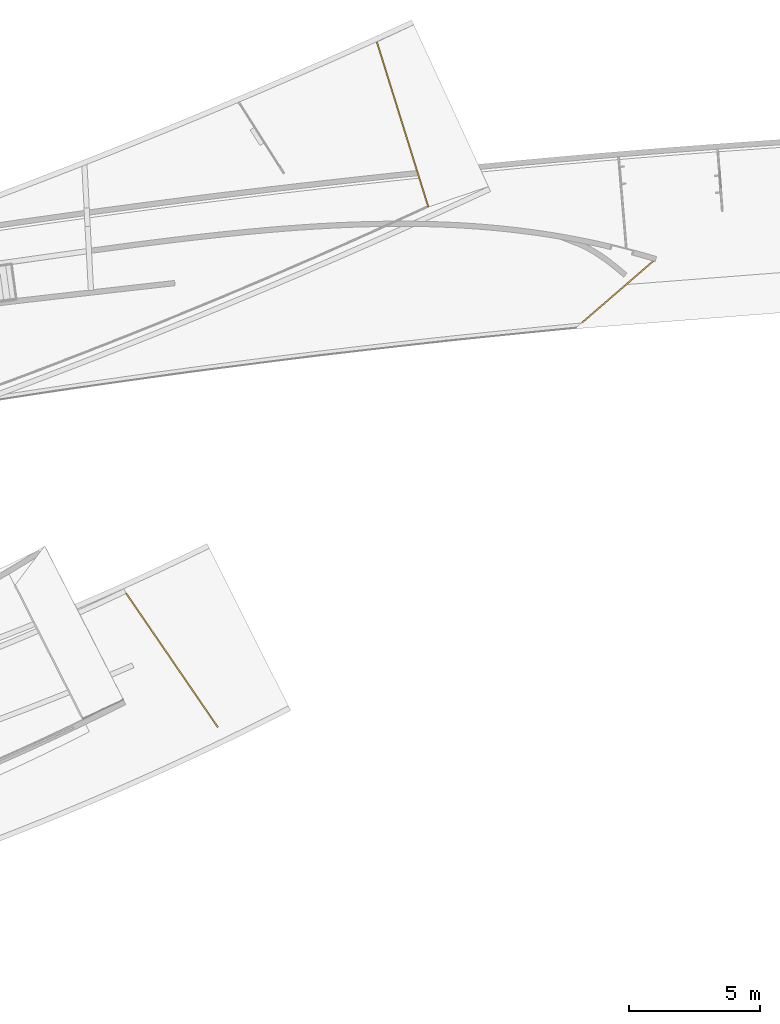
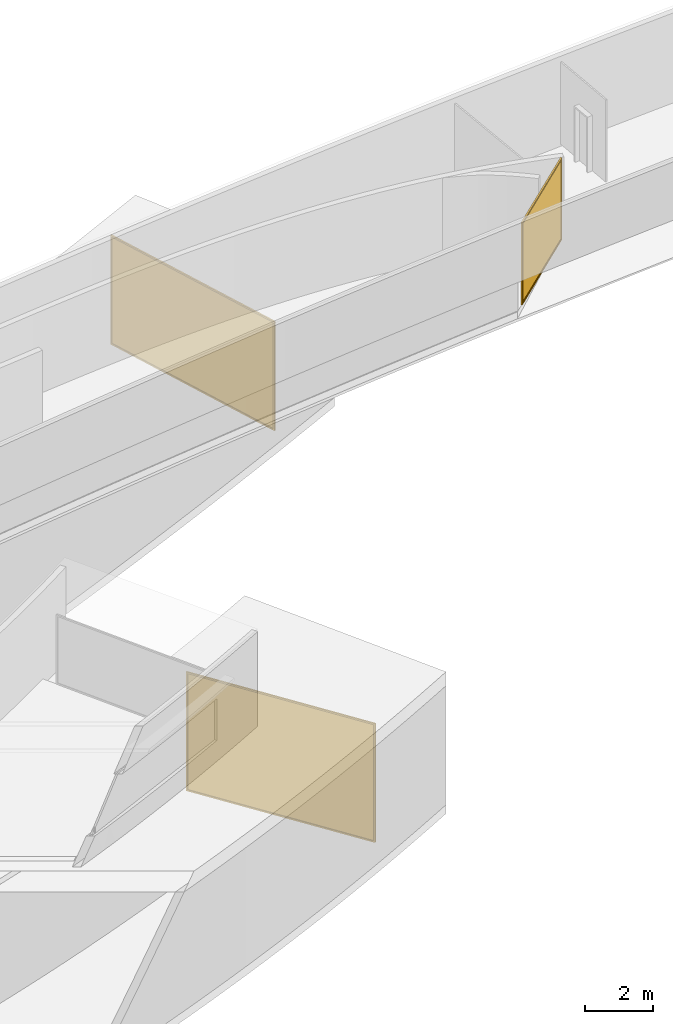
# Not in any storey, part 14 of 14: 3 curtain walls.
"""IFC2X3 model written with IfcOpenShell, lengths in millimetres."""

import ifcopenshell
import ifcopenshell.guid

model = None  # the IFC model being written
_history = None  # IfcOwnerHistory: only IFC2X3 demands one
_inside = {}  # id of a spatial element -> (the spatial element, [elements in it])
_under = {}  # id of a project, library or spatial element -> (it, [spatial elements below it])
_declared = {}  # id of a project -> (the project, [libraries it declares])
_typed = {}  # id of a type object -> (the type object, [elements of that type])
_made_of = {}  # id of a material, layer set ... -> (it, [elements and type objects made of it])


def new_model(schema):
    """Start an empty IFC model of exactly this schema.

    Asked for "IFC4X3", IfcOpenShell would pick the latest addendum, in which some entities
    have other attributes; the version numbers below select the first issue.
    IFC2X3 requires an IfcOwnerHistory on every rooted entity: one is made here for all.
    """
    global model, _history
    if schema == "IFC4X3":
        model = ifcopenshell.file(schema_version=(4, 3, 0, 0))
    else:
        model = ifcopenshell.file(schema=schema)
    _inside.clear()
    _under.clear()
    _declared.clear()
    _typed.clear()
    _made_of.clear()
    _history = None
    if model.schema == "IFC2X3":
        org = make("IfcOrganization", Name="unknown")
        user = make(
            "IfcPersonAndOrganization",
            ThePerson=make("IfcPerson", FamilyName="unknown"),
            TheOrganization=org,
        )
        app = make(
            "IfcApplication",
            ApplicationDeveloper=org,
            Version="unknown",
            ApplicationFullName="unknown",
            ApplicationIdentifier="unknown",
        )
        _history = make(
            "IfcOwnerHistory",
            OwningUser=user,
            OwningApplication=app,
            ChangeAction="ADDED",
            CreationDate=0,
        )
    return model


def make(cls, **values):
    """One entity of the class cls with the attributes given. An attribute that is None is left unset."""
    return model.create_entity(
        cls, **{name: value for name, value in values.items() if value is not None}
    )


def entity(cls, *values):
    """Any entity or typed value of the class cls, its attributes in the order of the schema. None: left unset."""
    e = model.create_entity(cls)
    for i, value in enumerate(values):
        if value is not None:
            e[i] = value
    return e


def rooted(cls, **values):
    """An entity with a GlobalId (a new one), such as an element, a storey or a relation."""
    return make(cls, GlobalId=ifcopenshell.guid.new(), OwnerHistory=_history, **values)


def si_unit(unit_type, name, prefix=None):
    """IfcSIUnit, for example si_unit("LENGTHUNIT", "METRE", prefix="MILLI")."""
    return make("IfcSIUnit", UnitType=unit_type, Prefix=prefix, Name=name)


def converted_unit(unit_type, name, factor, base, dimensions=None, offset=None):
    """IfcConversionBasedUnit, such as the inch: factor (a typed value) times the base unit."""
    return make(
        "IfcConversionBasedUnit"
        if offset is None
        else "IfcConversionBasedUnitWithOffset",
        ConversionOffset=offset,
        Dimensions=None
        if dimensions is None
        else entity("IfcDimensionalExponents", *dimensions),
        UnitType=unit_type,
        Name=name,
        ConversionFactor=make(
            "IfcMeasureWithUnit", ValueComponent=factor, UnitComponent=base
        ),
    )


def assignment(units):
    """IfcUnitAssignment: the units of a project."""
    return None if units is None else make("IfcUnitAssignment", Units=units)


def point(xyz):
    """IfcCartesianPoint."""
    return None if xyz is None else make("IfcCartesianPoint", Coordinates=xyz)


def direction(xyz):
    """IfcDirection."""
    return None if xyz is None else make("IfcDirection", DirectionRatios=xyz)


def frame(location, z_axis=None, x_axis=None):
    """IfcAxis2Placement3D, a coordinate frame: its origin and axes. An axis left out is left unset."""
    return make(
        "IfcAxis2Placement3D",
        Location=point(location),
        Axis=direction(z_axis),
        RefDirection=direction(x_axis),
    )


def origin_with_axes():
    """The frame at (0, 0, 0) with the z axis (0, 0, 1) and the x axis (1, 0, 0) written out."""
    return frame((0.0, 0.0, 0.0), z_axis=(0.0, 0.0, 1.0), x_axis=(1.0, 0.0, 0.0))


def place(relative_to, where):
    """IfcLocalPlacement: puts the frame where relative to a parent placement (None: the world)."""
    return make(
        "IfcLocalPlacement", PlacementRelTo=relative_to, RelativePlacement=where
    )


def context(
    kind, dimensions, precision=None, world=None, true_north=None, identifier=None
):
    """IfcGeometricRepresentationContext, for example the 3D "Model" context."""
    return make(
        "IfcGeometricRepresentationContext",
        ContextIdentifier=identifier,
        ContextType=kind,
        CoordinateSpaceDimension=dimensions,
        Precision=precision,
        WorldCoordinateSystem=world,
        TrueNorth=true_north,
    )


def project(units=None, contexts=None):
    """IfcProject with its units and contexts."""
    return rooted(
        "IfcProject",
        Name="project",
        RepresentationContexts=contexts,
        UnitsInContext=assignment(units),
    )


def spatial(cls, under=None, at=None, **own):
    """A site, building, storey or space (cls), placed at a placement, below another one or the project."""
    s = rooted(cls, ObjectPlacement=at, **own)
    if under is not None:
        _under.setdefault(under.id(), (under, []))[1].append(s)
    return s


def faces_of(points, faces, orient=None, outer=None):
    """IfcFace entities. A face is a list of loops; a loop is a list of indices into points, from 0.

    orient and outer hold one flag for each loop. By default every Orientation is true, the
    first loop of a face is its IfcFaceOuterBound and the others are IfcFaceBound.
    """
    made = []
    for i, loops in enumerate(faces):
        bounds = []
        for j, loop in enumerate(loops):
            is_outer = j == 0 if outer is None else outer[i][j]
            bounds.append(
                make(
                    "IfcFaceOuterBound" if is_outer else "IfcFaceBound",
                    Bound=make("IfcPolyLoop", Polygon=[points[k] for k in loop]),
                    Orientation=True if orient is None else orient[i][j],
                )
            )
        made.append(make("IfcFace", Bounds=bounds))
    return made


def open_shell(faces, orient=None, outer=None):
    """The faces of one IfcOpenShell. surface_model builds it on its shared points."""
    return ("IfcOpenShell", faces, orient, outer)


def faceted_brep(points, faces, orient=None, outer=None, voids=None):
    """IfcFacetedBrep: a solid bounded by flat faces; with voids (closed shells), ...WithVoids."""
    shared = [point(p) for p in points]
    hull = make("IfcClosedShell", CfsFaces=faces_of(shared, faces, orient, outer))
    if voids is None:
        return make("IfcFacetedBrep", Outer=hull)
    return make(
        "IfcFacetedBrepWithVoids",
        Outer=hull,
        Voids=[
            make(cls, CfsFaces=faces_of(shared, fs, o, b)) for cls, fs, o, b in voids
        ],
    )


def surface_model(cls, points, shells):
    """IfcFaceBasedSurfaceModel or IfcShellBasedSurfaceModel (cls): surfaces that need not close."""
    shared = [point(p) for p in points]
    made = [make(c, CfsFaces=faces_of(shared, fs, o, b)) for c, fs, o, b in shells]
    if cls == "IfcFaceBasedSurfaceModel":
        return make(cls, FbsmFaces=made)
    return make(cls, SbsmBoundary=made)


def shape(context_of_items, identifier, shape_type, items):
    """IfcShapeRepresentation: the items that make up one representation, for example the "Body"."""
    return make(
        "IfcShapeRepresentation",
        ContextOfItems=context_of_items,
        RepresentationIdentifier=identifier,
        RepresentationType=shape_type,
        Items=items,
    )


def source(mapping_origin, context_of_items, identifier, shape_type, items):
    """IfcRepresentationMap: a shape defined once, which mapped items show again and again."""
    return make(
        "IfcRepresentationMap",
        MappingOrigin=mapping_origin,
        MappedRepresentation=shape(context_of_items, identifier, shape_type, items),
    )


def transform(
    local_origin,
    x_axis=None,
    y_axis=None,
    z_axis=None,
    scale=None,
    scale2=None,
    scale3=None,
    uniform=True,
):
    """IfcCartesianTransformationOperator3D, or its non-uniform kind. x_axis, y_axis, z_axis: its Axis1, 2, 3."""
    if uniform:
        return make(
            "IfcCartesianTransformationOperator3D",
            Axis1=direction(x_axis),
            Axis2=direction(y_axis),
            LocalOrigin=point(local_origin),
            Scale=scale,
            Axis3=direction(z_axis),
        )
    return make(
        "IfcCartesianTransformationOperator3DnonUniform",
        Axis1=direction(x_axis),
        Axis2=direction(y_axis),
        LocalOrigin=point(local_origin),
        Scale=scale,
        Axis3=direction(z_axis),
        Scale2=scale2,
        Scale3=scale3,
    )


def mapped(mapping_source, mapping_target):
    """IfcMappedItem: shows the shape of a source again, moved by a transform."""
    return make(
        "IfcMappedItem", MappingSource=mapping_source, MappingTarget=mapping_target
    )


def made_of(thing, what):
    """Note that an element or type object is made of a material, layer set ...; save() writes the relation."""
    if what is not None:
        _made_of.setdefault(what.id(), (what, []))[1].append(thing)
    return thing


def element(
    cls,
    number,
    at=None,
    inside=None,
    cuts=None,
    type_object=None,
    material=None,
    context=None,
    identifier="Body",
    shape_type=None,
    held_by="IfcProductDefinitionShape",
    body=None,
    shapes=None,
    **own,
):
    """One element of the class cls, such as IfcWall. Its Tag is "e" and its number.

    at: its placement. inside: the storey or other place that contains it. cuts: it is an
    opening in that element (IfcRelVoidsElement). A single representation is given by context,
    identifier, shape_type and body (its items); several are given by shapes. held_by: the class
    of the entity that holds the representations. save() writes the other relations.
    """
    e = rooted(cls, Tag="e%d" % number, ObjectPlacement=at, **own)
    if body is not None:
        shapes = [shape(context, identifier, shape_type, body)]
    if shapes is not None:
        e.Representation = make(held_by, Representations=shapes)
    if inside is not None:
        _inside.setdefault(inside.id(), (inside, []))[1].append(e)
    if cuts is not None:
        rooted(
            "IfcRelVoidsElement", RelatingBuildingElement=cuts, RelatedOpeningElement=e
        )
    if type_object is not None:
        _typed.setdefault(type_object.id(), (type_object, []))[1].append(e)
    return made_of(e, material)


def aggregate(whole, parts):
    """IfcRelAggregates: a whole, such as a stair, and the parts it consists of."""
    return rooted("IfcRelAggregates", RelatingObject=whole, RelatedObjects=parts)


def save(model, path):
    """Write the relations noted so far, then the file.

    IfcRelAggregates (storeys below a building ...), IfcRelContainedInSpatialStructure (elements
    in a storey), IfcRelDefinesByType, IfcRelAssociatesMaterial and IfcRelDeclares: one each for
    every whole, place, type object, material and project.
    """
    for whole, parts in _under.values():
        aggregate(whole, parts)
    for where, things in _inside.values():
        rooted(
            "IfcRelContainedInSpatialStructure",
            RelatedElements=things,
            RelatingStructure=where,
        )
    for kind, things in _typed.values():
        rooted("IfcRelDefinesByType", RelatedObjects=things, RelatingType=kind)
    for what, things in _made_of.values():
        rooted("IfcRelAssociatesMaterial", RelatedObjects=things, RelatingMaterial=what)
    for by, libraries in _declared.values():
        rooted("IfcRelDeclares", RelatingContext=by, RelatedDefinitions=libraries)
    model.write(path)


model = new_model("IFC2X3")

# Units and contexts
model_context = context("Model", 3, precision=1.0, world=origin_with_axes(), true_north=direction((0.0, 1.0)))
ifc_project = project(units=[si_unit("LENGTHUNIT", "METRE", prefix="MILLI"), converted_unit("PLANEANGLEUNIT", "DEGREE", entity("IfcRatioMeasure", 0.017453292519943), si_unit("PLANEANGLEUNIT", "RADIAN"), dimensions=[0, 0, 0, 0, 0, 0, 0])], contexts=[model_context])

# Site
site_placement = place(None, origin_with_axes())
site = spatial("IfcSite", under=ifc_project, at=site_placement, Name="Site", CompositionType="ELEMENT")

# Curtain walls
shared_shape_1 = source(origin_with_axes(), model_context, "Body", "SurfaceModel", [
    surface_model("IfcShellBasedSurfaceModel", [(26557.0507311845, -7899.00735850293, 4720.00000000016), (26557.0507683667, -7899.00733304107, 4770.00000000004), (26515.796875, -7927.2578125, 4770.0), (26515.7968039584, -7927.25786114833, 4719.9999999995), (23025.1971813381, -2829.90386631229, 4769.9999999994), (23025.1972615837, -2829.90381136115, 4719.99999999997), (24770.4969576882, -5378.58088767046, 4719.99999999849), (26515.7966618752, -7927.25795844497, 4719.99999999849), (26515.7964211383, -7927.2581232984, 4770.00000000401), (24770.4961925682, -5378.5804987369, 4770.0000000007), (23053.4472365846, -2871.15797887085, 4769.9999999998), (26557.0507311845, -7899.00735850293, 4720.00000000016), (23066.4508029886, -2801.65357292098, 4719.9999999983), (23066.4510860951, -2801.65337905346, 4770.00000000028), (23094.7011992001, -2842.90769613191, 4769.99999999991), (26557.0507683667, -7899.00733304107, 4770.00000000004), (23025.1972615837, -2829.90381136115, 4719.99999999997), (23025.1971813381, -2829.90386631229, 4769.9999999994), (23066.4510860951, -2801.65337905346, 4770.00000000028), (23066.451171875, -2801.6533203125, 4720.0), (23094.7011992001, -2842.90769613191, 4769.99999999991), (23066.4510860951, -2801.65337905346, 4770.00000000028), (23025.1971813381, -2829.90386631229, 4769.9999999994), (23053.4472365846, -2871.15797887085, 4769.9999999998), (24770.4961925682, -5378.5804987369, 4770.0000000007), (26487.544921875, -7886.00341796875, 4770.0), (26515.796875, -7927.2578125, 4770.0), (26557.0507683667, -7899.00733304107, 4770.00000000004), (26528.80078125, -7857.7529296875, 4770.0), (24811.75, -5350.33056640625, 4770.0), (26557.0507311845, -7899.00735850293, 4720.00000000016), (26515.7968039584, -7927.25786114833, 4719.9999999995), (24770.49609375, -5378.58056640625, 4720.0), (23025.1972615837, -2829.90381136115, 4719.99999999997), (23066.451171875, -2801.6533203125, 4720.0), (24811.75, -5350.33056640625, 4720.0)], [open_shell([[[0, 1, 2, 3]], [[4, 5, 6, 7, 8, 9, 10]], [[11, 12, 13, 14, 15]], [[16, 17, 18, 19]], [[20, 21, 22, 23, 24, 25, 26, 27, 28, 29]], [[30, 31, 32, 33, 34, 35]]])]),
    surface_model("IfcShellBasedSurfaceModel", [(26487.544857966, -7886.00339218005, 4770.0), (26515.7968330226, -7927.25784124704, 4770.0), (26515.7968041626, -7927.25786101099, 6860.0), (26515.7968225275, -7927.25784843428, 8950.0), (26487.5448393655, -7886.0033875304, 8950.0), (26487.5448120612, -7886.00337579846, 6860.0), (26528.8007656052, -7857.75288823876, 4770.0), (26528.8007533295, -7857.75285752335, 6860.0), (26528.8007596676, -7857.75287491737, 8950.0), (26542.9257389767, -7878.37991176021, 8950.0), (26557.0507899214, -7899.00731828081, 8950.0), (26557.0507926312, -7899.0073164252, 6860.0), (26557.0507877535, -7899.00731976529, 4770.0), (26542.9257357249, -7878.37991398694, 4770.0), (26515.7968225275, -7927.25784843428, 8950.0), (26557.0507899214, -7899.00731828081, 8950.0), (26542.9257389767, -7878.37991176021, 8950.0), (26528.8007596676, -7857.75287491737, 8950.0), (26508.171875, -7871.8779296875, 8950.0), (26487.5448393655, -7886.0033875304, 8950.0), (26501.669921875, -7906.63037109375, 8950.0), (26487.5448393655, -7886.0033875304, 8950.0), (26528.8007596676, -7857.75287491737, 8950.0), (26528.8007533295, -7857.75285752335, 6860.0), (26528.8007656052, -7857.75288823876, 4770.0), (26487.544857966, -7886.00339218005, 4770.0), (26487.5448120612, -7886.00337579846, 6860.0), (26557.0507877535, -7899.00731976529, 4770.0), (26515.7968330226, -7927.25784124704, 4770.0), (26501.669921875, -7906.63037109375, 4770.0), (26487.544857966, -7886.00339218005, 4770.0), (26508.171875, -7871.8779296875, 4770.0), (26528.8007656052, -7857.75288823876, 4770.0), (26542.9257357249, -7878.37991398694, 4770.0), (26557.0507899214, -7899.00731828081, 8950.0), (26515.7968225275, -7927.25784843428, 8950.0), (26515.7968041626, -7927.25786101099, 6860.0), (26515.7968330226, -7927.25784124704, 4770.0), (26557.0507877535, -7899.00731976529, 4770.0), (26557.0507926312, -7899.0073164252, 6860.0)], [open_shell([[[0, 1, 2, 3, 4, 5]], [[6, 7, 8, 9, 10, 11, 12, 13]], [[14, 15, 16, 17, 18, 19, 20]], [[21, 22, 23, 24, 25, 26]], [[27, 28, 29, 30, 31, 32, 33]], [[34, 35, 36, 37, 38, 39]]])]),
    surface_model("IfcShellBasedSurfaceModel", [(23066.4510798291, -2801.65338334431, 8949.99999999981), (23066.4508267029, -2801.65355668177, 9000.00000000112), (24811.7507518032, -5350.33047617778, 9000.00000000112), (26557.0507464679, -7899.0073480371, 8999.99999999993), (26557.0507694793, -7899.00733227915, 8949.99999999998), (24811.7508208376, -5350.33042890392, 8949.9999999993), (23094.7011898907, -2842.90770250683, 8950.00000000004), (26515.796875, -7927.2578125, 8950.0), (26487.544921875, -7886.00341796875, 8950.0), (24770.4962283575, -5378.58047422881, 8949.99999999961), (23053.4472603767, -2871.15796257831, 8950.00000000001), (23025.1971970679, -2829.90385554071, 8950.0000000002), (23066.4510798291, -2801.65338334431, 8949.99999999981), (23094.7011898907, -2842.90770250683, 8950.00000000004), (24811.75, -5350.33056640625, 8950.0), (26528.80078125, -7857.7529296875, 8950.0), (26557.0507694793, -7899.00733227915, 8949.99999999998), (23025.1972297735, -2829.9038331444, 9000.0000000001), (23025.1971970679, -2829.90385554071, 8950.0000000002), (23053.4472603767, -2871.15796257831, 8950.00000000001), (24770.4962283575, -5378.58047422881, 8949.99999999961), (26515.7965171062, -7927.25805758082, 8949.99999999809), (26515.7966152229, -7927.25799039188, 9000.00000000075), (26557.0507464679, -7899.0073480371, 8999.99999999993), (26515.7967884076, -7927.25787179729, 9000.00000000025), (26515.796875, -7927.2578125, 8950.0), (26557.0507694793, -7899.00733227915, 8949.99999999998), (23025.1972297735, -2829.9038331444, 9000.0000000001), (23066.451171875, -2801.6533203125, 9000.0), (23066.4510798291, -2801.65338334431, 8949.99999999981), (23025.1971970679, -2829.90385554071, 8950.0000000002), (26515.7967884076, -7927.25787179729, 9000.00000000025), (26557.0507464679, -7899.0073480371, 8999.99999999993), (24811.75, -5350.33056640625, 9000.0), (23066.4508267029, -2801.65355668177, 8999.9999999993), (23025.1972297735, -2829.9038331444, 9000.0000000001), (24770.49609375, -5378.58056640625, 9000.0)], [open_shell([[[0, 1, 2, 3, 4, 5, 6]], [[7, 8, 9, 10, 11, 12, 13, 14, 15, 16]], [[17, 18, 19, 20, 21, 22]], [[23, 24, 25, 26]], [[27, 28, 29, 30]], [[31, 32, 33, 34, 35, 36]]])]),
])
shared_shape_2 = source(origin_with_axes(), model_context, "Body", "Brep", [
    faceted_brep([(23039.3222867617, -2850.53099138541, 8950.0), (23053.4472602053, -2871.15796269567, 8950.0), (23094.701171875, -2842.90771484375, 8950.0), (23080.576171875, -2822.28051757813, 8950.0), (23066.451171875, -2801.6533203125, 8950.0), (23025.1972612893, -2829.90381156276, 8950.0), (23025.1972612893, -2829.90381156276, 8950.0), (23066.451171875, -2801.6533203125, 8950.0), (23066.451171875, -2801.65332031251, 6860.0), (23066.451171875, -2801.6533203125, 4770.0), (23025.1972623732, -2829.90381082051, 4770.0), (23025.1972599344, -2829.90381249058, 6860.0), (23094.701171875, -2842.90771484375, 6860.0), (23094.701171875, -2842.90771484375, 4770.0), (23080.576171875, -2822.28051757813, 4770.0), (23066.451171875, -2801.6533203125, 4770.0), (23066.451171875, -2801.65332031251, 6860.0), (23066.451171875, -2801.6533203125, 8950.0), (23080.576171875, -2822.28051757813, 8950.0), (23094.701171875, -2842.90771484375, 8950.0), (23039.3222883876, -2850.53099027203, 4770.0), (23025.1972623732, -2829.90381082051, 4770.0), (23066.451171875, -2801.6533203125, 4770.0), (23080.576171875, -2822.28051757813, 4770.0), (23094.701171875, -2842.90771484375, 4770.0), (23053.4472612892, -2871.15796195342, 4770.0), (23039.3222883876, -2850.53099027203, 4770.0), (23053.4472612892, -2871.15796195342, 4770.0), (23053.4472583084, -2871.15796399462, 6860.0), (23053.4472602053, -2871.15796269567, 8950.0), (23039.3222867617, -2850.53099138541, 8950.0), (23025.1972612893, -2829.90381156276, 8950.0), (23025.1972599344, -2829.90381249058, 6860.0), (23025.1972623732, -2829.90381082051, 4770.0), (23094.701171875, -2842.90771484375, 8950.0), (23053.4472602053, -2871.15796269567, 8950.0), (23053.4472583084, -2871.15796399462, 6860.0), (23053.4472612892, -2871.15796195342, 4770.0), (23094.701171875, -2842.90771484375, 4770.0), (23094.701171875, -2842.90771484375, 6860.0)], [[[0, 1, 2, 3, 4, 5]], [[6, 7, 8, 9, 10, 11]], [[12, 13, 14, 15, 16, 17, 18, 19]], [[20, 21, 22, 23, 24, 25]], [[26, 27, 28, 29, 30, 31, 32, 33]], [[34, 35, 36, 37, 38, 39]]]),
])
shared_shape_3 = source(origin_with_axes(), model_context, "Body", "MappedRepresentation", [
    mapped(shared_shape_1, transform((0.0, 0.0, 0.0), x_axis=(1.0, 0.0, 0.0), y_axis=(0.0, 1.0, 0.0), z_axis=(0.0, 0.0, 1.0), scale=1.0)),
    mapped(shared_shape_2, transform((0.0, 0.0, 0.0), x_axis=(1.0, 0.0, 0.0), y_axis=(0.0, 1.0, 0.0), z_axis=(0.0, 0.0, 1.0), scale=1.0)),
])
shared_shape_4 = source(origin_with_axes(), model_context, "Body", "SurfaceModel", [
    surface_model("IfcShellBasedSurfaceModel", [(23074.07421875, -2857.03295898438, 8950.0), (24791.123046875, -5364.45556640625, 8950.0), (24791.123046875, -5364.45556640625, 4770.0), (23074.07421875, -2857.03295898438, 4770.0), (26508.171875, -7871.8779296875, 8950.0), (26508.171875, -7871.8779296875, 4770.0)], [open_shell([[[0, 1, 2, 3]], [[1, 4, 5, 2]]])]),
])
shared_shape_5 = source(origin_with_axes(), model_context, "Body", "MappedRepresentation", [
    mapped(shared_shape_3, transform((0.0, 0.0, 0.0), x_axis=(1.0, 0.0, 0.0), y_axis=(0.0, 1.0, 0.0), z_axis=(0.0, 0.0, 1.0), scale=1.0)),
    mapped(shared_shape_4, transform((0.0, 0.0, 0.0), x_axis=(1.0, 0.0, 0.0), y_axis=(0.0, 1.0, 0.0), z_axis=(0.0, 0.0, 1.0), scale=1.0)),
])
curtain_wall_1_placement = place(site_placement, origin_with_axes())
element("IfcCurtainWall", 1, at=curtain_wall_1_placement, inside=site, context=model_context, shape_type="MappedRepresentation", body=[
    mapped(shared_shape_5, transform((0.0, 0.0, 0.0), x_axis=(1.0, 0.0, 0.0), y_axis=(0.0, 1.0, 0.0), z_axis=(0.0, 0.0, 1.0), scale=1.0)),
])
shared_shape_6 = source(origin_with_axes(), model_context, "Body", "Brep", [
    faceted_brep([(32562.73828125, 18145.158203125, 4770.0), (32577.619140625, 18097.423828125, 4770.0), (32577.619140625, 18097.423828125, 6685.0), (32577.619140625, 18097.423828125, 8600.0), (32562.73828125, 18145.158203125, 8600.0), (32562.73828125, 18145.158203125, 6685.0), (32625.353515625, 18112.3046875, 8600.0), (32577.619140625, 18097.423828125, 8600.0), (32577.619140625, 18097.423828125, 6685.0), (32577.619140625, 18097.423828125, 4770.0), (32625.353515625, 18112.3046875, 4770.0), (32625.353515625, 18112.3046875, 6685.0), (32610.47265625, 18160.0390625, 8600.0), (32562.73828125, 18145.158203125, 8600.0), (32577.619140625, 18097.423828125, 8600.0), (32625.353515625, 18112.3046875, 8600.0), (32562.73828125, 18145.158203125, 8600.0), (32610.47265625, 18160.0390625, 8600.0), (32610.47265625, 18160.0390625, 6685.0), (32610.47265625, 18160.0390625, 4770.0), (32562.73828125, 18145.158203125, 4770.0), (32562.73828125, 18145.158203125, 6685.0), (32562.73828125, 18145.158203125, 4770.0), (32610.47265625, 18160.0390625, 4770.0), (32625.353515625, 18112.3046875, 4770.0), (32577.619140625, 18097.423828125, 4770.0), (32625.353515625, 18112.3046875, 4770.0), (32610.47265625, 18160.0390625, 4770.0), (32610.47265625, 18160.0390625, 6685.0), (32610.47265625, 18160.0390625, 8600.0), (32625.353515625, 18112.3046875, 8600.0), (32625.353515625, 18112.3046875, 6685.0)], [[[0, 1, 2, 3, 4, 5]], [[6, 7, 8, 9, 10, 11]], [[12, 13, 14, 15]], [[16, 17, 18, 19, 20, 21]], [[22, 23, 24, 25]], [[26, 27, 28, 29, 30, 31]]]),
])
shared_shape_7 = source(origin_with_axes(), model_context, "Body", "SurfaceModel", [
    surface_model("IfcShellBasedSurfaceModel", [(32562.7390525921, 18145.1584435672, 8650.00000000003), (32562.7390514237, 18145.158443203, 8599.99999999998), (33540.0846228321, 15009.8200232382, 8599.99999999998), (34517.4301942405, 11874.4816032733, 8599.99999999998), (34517.4301954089, 11874.4816036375, 8650.00000000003), (33540.0846240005, 15009.8200236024, 8650.00000000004), (34565.1640625, 11889.361328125, 8650.0), (34517.4296875, 11874.4814453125, 8650.0), (34517.4296875, 11874.4814453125, 8600.0), (34565.1640625, 11889.361328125, 8600.0), (32610.47265625, 18160.0390625, 8650.0), (32562.7390525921, 18145.1584435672, 8649.99999999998), (33540.0859375, 15009.8203125, 8650.0), (34517.4296875, 11874.4814453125, 8650.0), (34565.1640625, 11889.361328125, 8650.0), (33587.8203125, 15024.7001953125, 8650.0), (32562.7390514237, 18145.158443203, 8599.99999999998), (32610.47265625, 18160.0390625, 8600.0), (32625.3534089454, 18112.3046542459, 8599.99999999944), (33587.8203125, 15024.7001953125, 8600.0), (34550.2850849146, 11937.0956808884, 8599.99999999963), (34565.1640625, 11889.361328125, 8600.0), (34517.4296875, 11874.4814453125, 8600.0), (34502.5506605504, 11922.2157826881, 8600.0), (33540.0859375, 15009.8203125, 8600.0), (32577.6190097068, 18097.4237873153, 8600.0), (34565.1646662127, 11889.3615163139, 8599.99999999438), (32610.4734766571, 18160.0393182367, 8599.99999999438), (32610.4732367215, 18160.0392434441, 8650.00000000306), (34565.164426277, 11889.3614415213, 8650.00000000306), (32562.73828125, 18145.158203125, 8650.0), (32610.47265625, 18160.0390625, 8650.0), (32610.47265625, 18160.0390625, 8600.0), (32562.73828125, 18145.158203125, 8600.0)], [open_shell([[[0, 1, 2, 3, 4, 5]], [[6, 7, 8, 9]], [[10, 11, 12, 13, 14, 15]], [[16, 17, 18, 19, 20, 21, 22, 23, 24, 25]], [[26, 27, 28, 29]], [[30, 31, 32, 33]]])]),
    surface_model("IfcShellBasedSurfaceModel", [(34502.5506689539, 11922.2158225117, 4770.0), (34526.41796875, 11929.65625, 4770.0), (34550.2847493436, 11937.0955762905, 4769.99999999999), (34557.72265625, 11913.228515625, 4770.0), (34565.1639713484, 11889.3612625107, 4770.0), (34541.296875, 11881.9208984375, 4770.0), (34517.429699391, 11874.4814071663, 4770.0), (34509.98828125, 11898.3486328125, 4770.0), (34509.9898783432, 11898.3485218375, 4769.99999999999), (34517.4292806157, 11874.4813184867, 4769.99999999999), (34517.4292297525, 11874.4813026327, 6685.00000000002), (34517.4291788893, 11874.4812867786, 8600.00000000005), (34509.9897766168, 11898.3484901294, 8600.00000000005), (34502.5503743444, 11922.2156934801, 8600.00000000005), (34502.5504252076, 11922.2157093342, 6685.00000000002), (34502.5504760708, 11922.2157251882, 4769.99999999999), (34541.296875, 11881.9208984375, 8600.0), (34565.1636556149, 11889.3612012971, 8599.99999999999), (34557.72265625, 11913.228515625, 8600.0), (34550.2851403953, 11937.0957539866, 8600.0), (34526.41796875, 11929.65625, 8600.0), (34502.5507614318, 11922.2158838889, 8600.0), (34509.98828125, 11898.3486328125, 8600.0), (34517.4297033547, 11874.4813944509, 8600.0), (34565.1640823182, 11889.3612645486, 8600.0), (34517.4297192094, 11874.4813435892, 8600.0), (34517.429711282, 11874.48136902, 4770.0), (34565.164094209, 11889.361226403, 4770.0), (34565.1637573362, 11889.3612330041, 4769.99999999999), (34550.2847493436, 11937.0955762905, 4769.99999999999), (34550.284698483, 11937.095560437, 6685.00000000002), (34550.2846476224, 11937.0955445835, 8600.00000000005), (34565.1636556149, 11889.3612012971, 8600.00000000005), (34565.1637064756, 11889.3612171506, 6685.00000000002), (34502.5507416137, 11922.2159474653, 8600.0), (34550.2851403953, 11937.0957539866, 8600.0), (34550.285144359, 11937.0957412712, 4770.0), (34502.550749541, 11922.2159220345, 4770.0)], [open_shell([[[0, 1, 2, 3, 4, 5, 6, 7]], [[8, 9, 10, 11, 12, 13, 14, 15]], [[16, 17, 18, 19, 20, 21, 22, 23]], [[24, 25, 26, 27]], [[28, 29, 30, 31, 32, 33]], [[34, 35, 36, 37]]])]),
    surface_model("IfcShellBasedSurfaceModel", [(34517.4303143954, 11874.4816407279, 4769.99999999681), (34565.1640625, 11889.361328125, 4770.0), (34550.2850261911, 11937.0956625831, 4770.00000000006), (33587.8203125, 15024.7001953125, 4770.0), (32625.3533704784, 18112.304642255, 4770.00000000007), (32610.47265625, 18160.0390625, 4770.0), (32562.73828125, 18145.158203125, 4770.0), (32577.6190511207, 18097.4238002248, 4770.00000000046), (33540.0859375, 15009.8203125, 4770.0), (34502.5507204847, 11922.2158013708, 4770.00000000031), (34565.1640625, 11889.361328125, 4720.0), (34517.4300825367, 11874.4815684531, 4719.99999999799), (33540.0859375, 15009.8203125, 4720.0), (32562.73828125, 18145.158203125, 4720.0), (32610.47265625, 18160.0390625, 4720.0), (33587.8203125, 15024.7001953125, 4720.0), (33587.8189527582, 15024.7003802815, 4719.99999999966), (32610.4733785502, 18160.0392876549, 4719.99999999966), (32610.4734000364, 18160.0392943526, 4770.00000000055), (33587.8189742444, 15024.7003869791, 4770.00000000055), (34565.1645484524, 11889.3614796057, 4770.00000000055), (34565.1645269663, 11889.3614729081, 4719.99999999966), (32562.73828125, 18145.158203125, 4720.0), (32562.73828125, 18145.158203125, 4770.0), (32610.47265625, 18160.0390625, 4770.0), (32610.47265625, 18160.0390625, 4720.0), (34565.1640625, 11889.361328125, 4720.0), (34565.1640625, 11889.361328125, 4770.0), (34517.4296875, 11874.4814453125, 4770.0), (34517.4296875, 11874.4814453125, 4720.0), (32562.7390180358, 18145.1584327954, 4745.00000000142), (32562.7389021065, 18145.158396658, 4719.99999999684), (33540.0844923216, 15009.8199825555, 4719.99999999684), (34517.4300825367, 11874.4815684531, 4719.99999999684), (34517.4301984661, 11874.4816045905, 4745.00000000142), (34517.4303143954, 11874.4816407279, 4770.000000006), (33540.0847241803, 15009.8200548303, 4770.000000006), (32562.7391339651, 18145.1584689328, 4770.000000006)], [open_shell([[[0, 1, 2, 3, 4, 5, 6, 7, 8, 9]], [[10, 11, 12, 13, 14, 15]], [[16, 17, 18, 19, 20, 21]], [[22, 23, 24, 25]], [[26, 27, 28, 29]], [[30, 31, 32, 33, 34, 35, 36, 37]]])]),
])
shared_shape_8 = source(origin_with_axes(), model_context, "Body", "MappedRepresentation", [
    mapped(shared_shape_6, transform((0.0, 0.0, 0.0), x_axis=(1.0, 0.0, 0.0), y_axis=(0.0, 1.0, 0.0), z_axis=(0.0, 0.0, 1.0), scale=1.0)),
    mapped(shared_shape_7, transform((0.0, 0.0, 0.0), x_axis=(1.0, 0.0, 0.0), y_axis=(0.0, 1.0, 0.0), z_axis=(0.0, 0.0, 1.0), scale=1.0)),
])
shared_shape_9 = source(origin_with_axes(), model_context, "Body", "SurfaceModel", [
    surface_model("IfcShellBasedSurfaceModel", [(32601.486328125, 18104.86328125, 8600.0), (34526.41796875, 11929.65625, 8600.0), (34526.41796875, 11929.65625, 4770.0), (32601.486328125, 18104.86328125, 4770.0)], [open_shell([[[0, 1, 2, 3]]])]),
])
shared_shape_10 = source(origin_with_axes(), model_context, "Body", "MappedRepresentation", [
    mapped(shared_shape_8, transform((0.0, 0.0, 0.0), x_axis=(1.0, 0.0, 0.0), y_axis=(0.0, 1.0, 0.0), z_axis=(0.0, 0.0, 1.0), scale=1.0)),
    mapped(shared_shape_9, transform((0.0, 0.0, 0.0), x_axis=(1.0, 0.0, 0.0), y_axis=(0.0, 1.0, 0.0), z_axis=(0.0, 0.0, 1.0), scale=1.0)),
])
curtain_wall_2_placement = place(site_placement, origin_with_axes())
element("IfcCurtainWall", 2, at=curtain_wall_2_placement, inside=site, context=model_context, shape_type="MappedRepresentation", body=[
    mapped(shared_shape_10, transform((0.0, 0.0, 0.0), x_axis=(1.0, 0.0, 0.0), y_axis=(0.0, 1.0, 0.0), z_axis=(0.0, 0.0, 1.0), scale=1.0)),
])
shared_shape_11 = source(origin_with_axes(), model_context, "Body", "Brep", [
    faceted_brep([(40383.32421875, 7511.44189453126, 12750.0), (40421.15234375, 7544.13671875, 12750.0), (40421.15234375, 7544.13671875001, 11325.0), (40421.15234375, 7544.13671875, 9900.0), (40383.32421875, 7511.44189453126, 9900.0), (40383.32421875, 7511.44189453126, 11325.0), (40453.84765625, 7506.3076171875, 9900.0), (40421.15234375, 7544.13671875, 9900.0), (40421.15234375, 7544.13671875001, 11325.0), (40421.15234375, 7544.13671875, 12750.0), (40453.84765625, 7506.3076171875, 12750.0), (40453.84765625, 7506.30761718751, 11325.0), (40416.01953125, 7473.61279296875, 12750.0), (40453.84765625, 7506.3076171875, 12750.0), (40421.15234375, 7544.13671875, 12750.0), (40383.32421875, 7511.44189453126, 12750.0), (40453.84765625, 7506.3076171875, 9900.0), (40416.01953125, 7473.61279296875, 9900.0), (40383.32421875, 7511.44189453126, 9900.0), (40421.15234375, 7544.13671875, 9900.0), (40383.32421875, 7511.44189453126, 9900.0), (40416.01953125, 7473.61279296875, 9900.0), (40416.01953125, 7473.61279296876, 11325.0), (40416.01953125, 7473.61279296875, 12750.0), (40383.32421875, 7511.44189453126, 12750.0), (40383.32421875, 7511.44189453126, 11325.0), (40453.84765625, 7506.3076171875, 12750.0), (40416.01953125, 7473.61279296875, 12750.0), (40416.01953125, 7473.61279296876, 11325.0), (40416.01953125, 7473.61279296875, 9900.0), (40453.84765625, 7506.3076171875, 9900.0), (40453.84765625, 7506.30761718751, 11325.0)], [[[0, 1, 2, 3, 4, 5]], [[6, 7, 8, 9, 10, 11]], [[12, 13, 14, 15]], [[16, 17, 18, 19]], [[20, 21, 22, 23, 24, 25]], [[26, 27, 28, 29, 30, 31]]]),
    faceted_brep([(43115.6875, 9806.8720703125, 9900.0), (43082.9921875, 9844.701171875, 9900.0), (43082.9921875, 9844.701171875, 11325.0), (43082.9921875, 9844.701171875, 12750.0), (43115.6875, 9806.8720703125, 12750.0), (43115.6875, 9806.8720703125, 11325.0), (43045.1640866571, 9812.00588025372, 11325.0), (43045.164076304, 9812.00587130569, 9900.0), (43061.5116221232, 9793.09171336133, 9900.0), (43077.8593934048, 9774.17677371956, 9900.0), (43077.8594060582, 9774.17678465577, 11325.0), (43077.8593980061, 9774.17677769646, 12750.0), (43061.5116290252, 9793.09171932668, 12750.0), (43045.1640809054, 9812.00587528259, 12750.0), (43096.7734375, 9790.5244140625, 12750.0), (43077.8593980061, 9774.17677769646, 12750.0), (43077.8594060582, 9774.17678465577, 11325.0), (43077.8593934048, 9774.17677371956, 9900.0), (43096.7734375, 9790.5244140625, 9900.0), (43115.6875, 9806.8720703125, 9900.0), (43115.6875, 9806.8720703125, 11325.0), (43115.6875, 9806.8720703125, 12750.0), (43115.6875, 9806.8720703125, 12750.0), (43082.9921875, 9844.701171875, 12750.0), (43064.078125, 9828.353515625, 12750.0), (43045.1640809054, 9812.00587528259, 12750.0), (43061.5116290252, 9793.09171932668, 12750.0), (43077.8593980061, 9774.17677769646, 12750.0), (43096.7734375, 9790.5244140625, 12750.0), (43082.9921875, 9844.701171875, 12750.0), (43082.9921875, 9844.701171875, 11325.0), (43082.9921875, 9844.701171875, 9900.0), (43064.078125, 9828.353515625, 9900.0), (43045.164076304, 9812.00587130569, 9900.0), (43045.1640866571, 9812.00588025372, 11325.0), (43045.1640809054, 9812.00587528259, 12750.0), (43064.078125, 9828.353515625, 12750.0), (43082.9921875, 9844.701171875, 9900.0), (43115.6875, 9806.8720703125, 9900.0), (43096.7734375, 9790.5244140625, 9900.0), (43077.8593934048, 9774.17677371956, 9900.0), (43061.5116221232, 9793.09171336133, 9900.0), (43045.164076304, 9812.00587130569, 9900.0), (43064.078125, 9828.353515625, 9900.0)], [[[0, 1, 2, 3, 4, 5]], [[6, 7, 8, 9, 10, 11, 12, 13]], [[14, 15, 16, 17, 18, 19, 20, 21]], [[22, 23, 24, 25, 26, 27, 28]], [[29, 30, 31, 32, 33, 34, 35, 36]], [[37, 38, 39, 40, 41, 42, 43]]]),
])
shared_shape_12 = source(origin_with_axes(), model_context, "Body", "SurfaceModel", [
    surface_model("IfcShellBasedSurfaceModel", [(43115.6874875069, 9806.87208476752, 9850.00000000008), (41765.8515625, 8640.2421875, 9850.0), (40416.01953125, 7473.61279296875, 9850.0), (40383.32421875, 7511.44189453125, 9850.0), (41733.15625, 8678.0712890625, 9850.0), (43082.9921651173, 9844.70119777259, 9850.00000000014), (43115.6874875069, 9806.87208476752, 9850.00000000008), (43082.9921651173, 9844.70119777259, 9850.00000000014), (43082.992208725, 9844.70114731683, 9899.99999999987), (43115.6875311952, 9806.87203421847, 9899.99999999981), (43115.6875311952, 9806.87203421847, 9899.99999999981), (43082.992208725, 9844.70114731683, 9899.99999999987), (43045.1640625, 9812.005859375, 9900.0), (41733.15625, 8678.0712890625, 9900.0), (40421.152421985, 7544.13662822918, 9899.99999999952), (40383.32421875, 7511.44189453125, 9900.0), (40416.01953125, 7473.61279296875, 9900.0), (40453.8477325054, 7506.30752895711, 9899.99999999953), (41765.8515625, 8640.2421875, 9900.0), (43077.859375, 9774.1767578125, 9900.0), (40383.32421875, 7511.44189453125, 9850.0), (40416.01953125, 7473.61279296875, 9850.0), (40416.01953125, 7473.61279296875, 9900.0), (40383.32421875, 7511.44189453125, 9900.0), (43115.6875311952, 9806.87203421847, 9899.99999999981), (40416.0192485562, 7473.61312005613, 9900.00000000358), (40416.0191174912, 7473.61327170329, 9849.99999999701), (43115.6874875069, 9806.87208476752, 9850.00000000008), (40383.3238096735, 7511.44236784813, 9849.99999999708), (40383.3239404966, 7511.44221648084, 9900.00000000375), (41733.1580958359, 8678.07165734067, 9900.00000000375), (43082.992208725, 9844.70114731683, 9899.99999999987), (43082.9921651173, 9844.70119777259, 9850.00000000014), (41733.1579650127, 8678.07180870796, 9849.99999999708)], [open_shell([[[0, 1, 2, 3, 4, 5]], [[6, 7, 8, 9]], [[10, 11, 12, 13, 14, 15, 16, 17, 18, 19]], [[20, 21, 22, 23]], [[24, 25, 26, 27]], [[28, 29, 30, 31, 32, 33]]])]),
    surface_model("IfcShellBasedSurfaceModel", [(40383.32421875, 7511.44189453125, 12800.0), (40416.0191221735, 7473.61326628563, 12799.9999999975), (41765.8515625, 8640.2421875, 12800.0), (43115.6874776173, 9806.8720962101, 12799.9999999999), (43082.9921750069, 9844.70118633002, 12799.9999999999), (41733.15625, 8678.0712890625, 12800.0), (40416.0192529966, 7473.61311491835, 12749.9999999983), (40383.32421875, 7511.44189453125, 12750.0), (40421.1524200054, 7544.13663051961, 12750.0000000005), (41733.15625, 8678.0712890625, 12750.0), (43045.1640625, 9812.005859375, 12750.0), (43082.9922186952, 9844.70113578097, 12750.0000000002), (43115.687521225, 9806.87204575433, 12750.0000000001), (43077.859375, 9774.1767578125, 12750.0), (41765.8515625, 8640.2421875, 12750.0), (40453.847734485, 7506.30752666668, 12750.0000000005), (43115.6874776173, 9806.8720962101, 12799.9999999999), (43115.687521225, 9806.87204575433, 12750.0000000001), (43082.9922186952, 9844.70113578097, 12750.0000000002), (43082.9921750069, 9844.70118633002, 12799.9999999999), (41765.8532775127, 8640.24270714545, 12800.0000000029), (40416.0191221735, 7473.61326628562, 12800.0000000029), (40416.0192529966, 7473.61311491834, 12749.9999999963), (41765.8534083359, 8640.24255577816, 12749.9999999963), (43115.687521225, 9806.87204575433, 12750.0000000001), (43115.6874776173, 9806.8720962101, 12799.9999999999), (40383.32421875, 7511.44189453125, 12800.0), (40383.32421875, 7511.44189453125, 12750.0), (40416.01953125, 7473.61279296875, 12750.0), (40416.01953125, 7473.61279296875, 12800.0), (40383.3239360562, 7511.44222161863, 12749.9999999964), (40383.3238049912, 7511.44237326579, 12800.000000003), (41733.1579775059, 8678.07179425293, 12800.000000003), (43082.9921750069, 9844.70118633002, 12799.9999999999), (43082.9922186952, 9844.70113578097, 12750.0000000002), (41733.1581085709, 8678.07164260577, 12749.9999999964)], [open_shell([[[0, 1, 2, 3, 4, 5]], [[6, 7, 8, 9, 10, 11, 12, 13, 14, 15]], [[16, 17, 18, 19]], [[20, 21, 22, 23, 24, 25]], [[26, 27, 28, 29]], [[30, 31, 32, 33, 34, 35]]])]),
])
shared_shape_13 = source(origin_with_axes(), model_context, "Body", "MappedRepresentation", [
    mapped(shared_shape_11, transform((0.0, 0.0, 0.0), x_axis=(1.0, 0.0, 0.0), y_axis=(0.0, 1.0, 0.0), z_axis=(0.0, 0.0, 1.0), scale=1.0)),
    mapped(shared_shape_12, transform((0.0, 0.0, 0.0), x_axis=(1.0, 0.0, 0.0), y_axis=(0.0, 1.0, 0.0), z_axis=(0.0, 0.0, 1.0), scale=1.0)),
])
shared_shape_14 = source(origin_with_axes(), model_context, "Body", "SurfaceModel", [
    surface_model("IfcShellBasedSurfaceModel", [(3468.23583984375, 0.0, 2850.0), (0.0, 0.0, 2850.0), (0.0, 0.0, 0.0), (3468.23583984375, 0.0, 0.0)], [open_shell([[[0, 1, 2, 3]]])]),
])
shared_shape_15 = source(origin_with_axes(), model_context, "Body", "MappedRepresentation", [
    mapped(shared_shape_13, transform((0.0, 0.0, 0.0), x_axis=(1.0, 0.0, 0.0), y_axis=(0.0, 1.0, 0.0), z_axis=(0.0, 0.0, 1.0), scale=1.0)),
    mapped(shared_shape_14, transform((43061.5100533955, 9793.09171349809, 9900.0), x_axis=(-0.756583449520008, -0.653897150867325, 0.0), y_axis=(0.653897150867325, -0.756583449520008, 0.0), z_axis=(0.0, 0.0, 1.0), scale=1.0)),
])
curtain_wall_3_placement = place(site_placement, origin_with_axes())
element("IfcCurtainWall", 3, at=curtain_wall_3_placement, inside=site, context=model_context, shape_type="MappedRepresentation", body=[
    mapped(shared_shape_15, transform((0.0, 0.0, 0.0), x_axis=(1.0, 0.0, 0.0), y_axis=(0.0, 1.0, 0.0), z_axis=(0.0, 0.0, 1.0), scale=1.0)),
])

save(model, "model.ifc")
